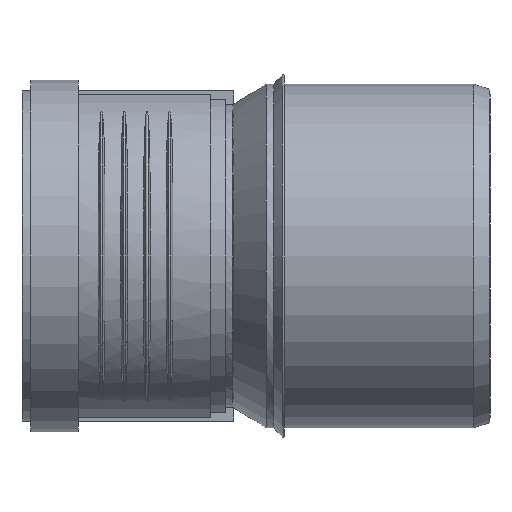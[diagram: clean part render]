
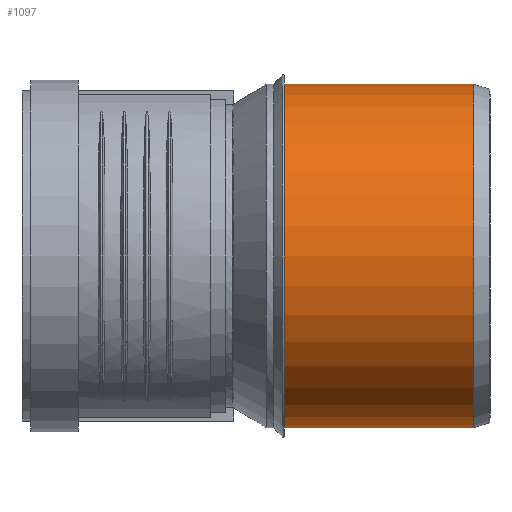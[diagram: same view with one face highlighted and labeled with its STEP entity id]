
A CAD part, left-side view. The second image highlights one B-rep face of the part: STEP entity #1097.
In plain terms, the highlighted cylindrical face has radius 62.6 mm (diameter 125.2 mm), a full revolution.
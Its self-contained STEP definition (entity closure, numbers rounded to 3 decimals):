
#124=CYLINDRICAL_SURFACE($,#1182,62.6);
#148=FACE_BOUND($,#277,.T.);
#208=FACE_OUTER_BOUND($,#276,.T.);
#276=EDGE_LOOP($,(#755));
#277=EDGE_LOOP($,(#756));
#427=CIRCLE($,#1181,62.6);
#428=CIRCLE($,#1183,62.6);
#486=VERTEX_POINT($,#1660);
#487=VERTEX_POINT($,#1663);
#599=EDGE_CURVE($,#486,#486,#427,.T.);
#600=EDGE_CURVE($,#487,#487,#428,.T.);
#755=ORIENTED_EDGE($,*,*,#600,.F.);
#756=ORIENTED_EDGE($,*,*,#599,.T.);
#1097=ADVANCED_FACE($,(#208,#148),#124,.T.);
#1181=AXIS2_PLACEMENT_3D($,#1661,#1331,#1332);
#1182=AXIS2_PLACEMENT_3D($,#1662,#1333,#1334);
#1183=AXIS2_PLACEMENT_3D($,#1664,#1335,#1336);
#1331=DIRECTION('center_axis',(0.,-1.,0.));
#1332=DIRECTION('ref_axis',(1.,0.,0.));
#1333=DIRECTION('center_axis',(0.,-1.,0.));
#1334=DIRECTION('ref_axis',(1.,0.,0.));
#1335=DIRECTION('center_axis',(0.,-1.,0.));
#1336=DIRECTION('ref_axis',(1.,0.,0.));
#1660=CARTESIAN_POINT('',(62.6,74.9,0.));
#1661=CARTESIAN_POINT('Origin',(0.,74.9,0.));
#1662=CARTESIAN_POINT('Origin',(0.,40.45,0.));
#1663=CARTESIAN_POINT('',(62.6,6.,0.));
#1664=CARTESIAN_POINT('Origin',(0.,6.,0.));
